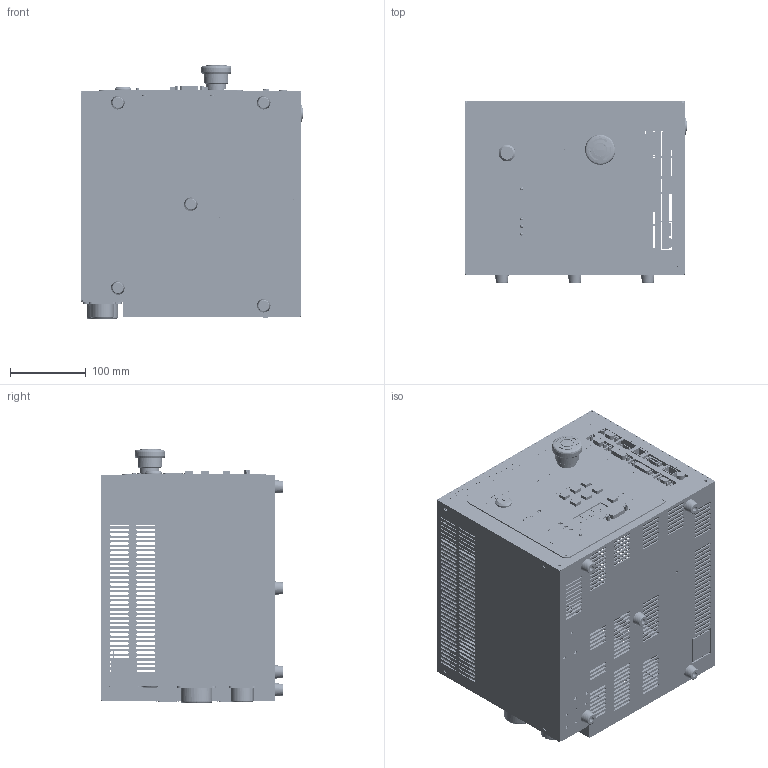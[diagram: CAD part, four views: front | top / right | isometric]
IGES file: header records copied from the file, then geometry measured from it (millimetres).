
Start section: ------------------------------------------------------------------------
Global section: file name: C:\Users\14979\Desktop\ŽÐ–¼‚È‚µver3DCAD\TS3000\Lite-TS3000_ŽÐ–¼‚È‚µver.igs; native system: spGate; preprocessor: ver15.6.2; author: Unknown; organization: Unknown; date: 200212.134712; units: millimetre
Bounding box: 293.25 x 241 x 336.12 mm (x, y, z)
Surface area: 1188377.4 mm2 (no closed solid volume)
Topology: 0 solids, 0 shells, 11227 faces, 62982 edges, 62915 vertices
Faces by surface type: bspline 11227
